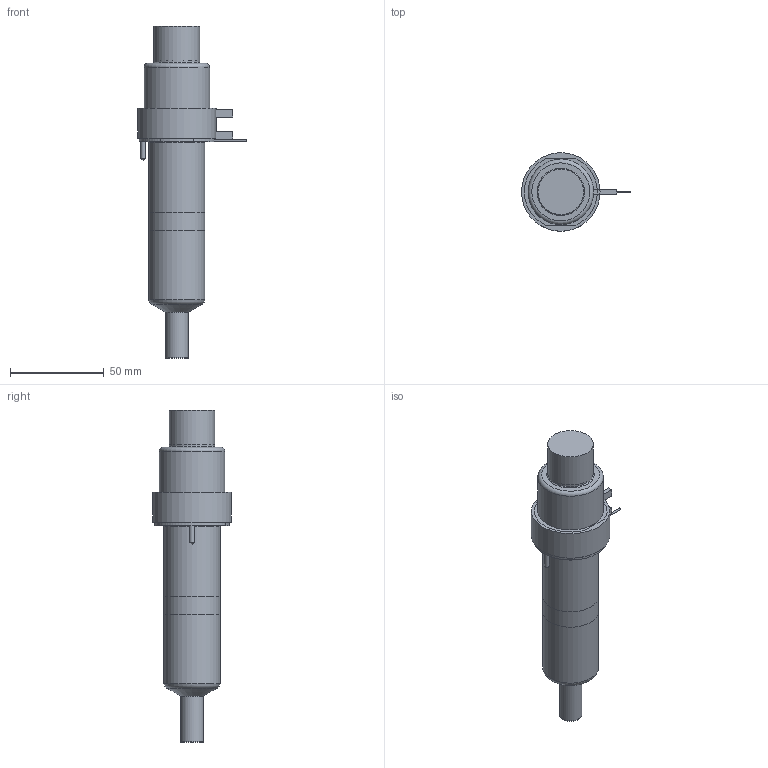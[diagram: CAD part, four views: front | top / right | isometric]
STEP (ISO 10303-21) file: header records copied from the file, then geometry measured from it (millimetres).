
FILE_DESCRIPTION(/* description */ (''),/* implementation_level */ '2;1');
FILE_NAME(/* name */ 'SXYCN16095P4U_200C_a',/* time_stamp */ '2016-03-04T16:12:25+13:00',/* author */ (''),/* organization */ (''),/* preprocessor_version */ 'ST-DEVELOPER v9',/* originating_system */ 'UGS - NX 4.0',/* authorisation */ '');
FILE_SCHEMA (('CONFIG_CONTROL_DESIGN'));
Length unit declared in the file: millimetre
Products named in the file (1): Matt1033hvfz
Bounding box: 58.25 x 42 x 177.52 mm (x, y, z)
Volume: 215079.9 mm3; surface area: 37586.5 mm2
Topology: 7 solids, 7 shells, 91 faces, 175 edges, 112 vertices
Faces by surface type: plane 45, cylinder 29, torus 8, cone 7, bspline 1, sphere 1
Full cylindrical faces by diameter (mm): 1 x3, 1.5 x1, 2.5 x2, 5 x1, 7 x1, 11.61 x1, 11.995 x2, 14.8 x1, 24 x1, 24.4 x1, 25.4 x1, 30 x2, 31.8 x1, 35 x1, 40 x1, 42 x1
Entity records: 2230 total; most frequent: CARTESIAN_POINT 435, DIRECTION 378, ORIENTED_EDGE 266, AXIS2_PLACEMENT_3D 164, EDGE_LOOP 140, EDGE_CURVE 133, VERTEX_POINT 106, ADVANCED_FACE 91
